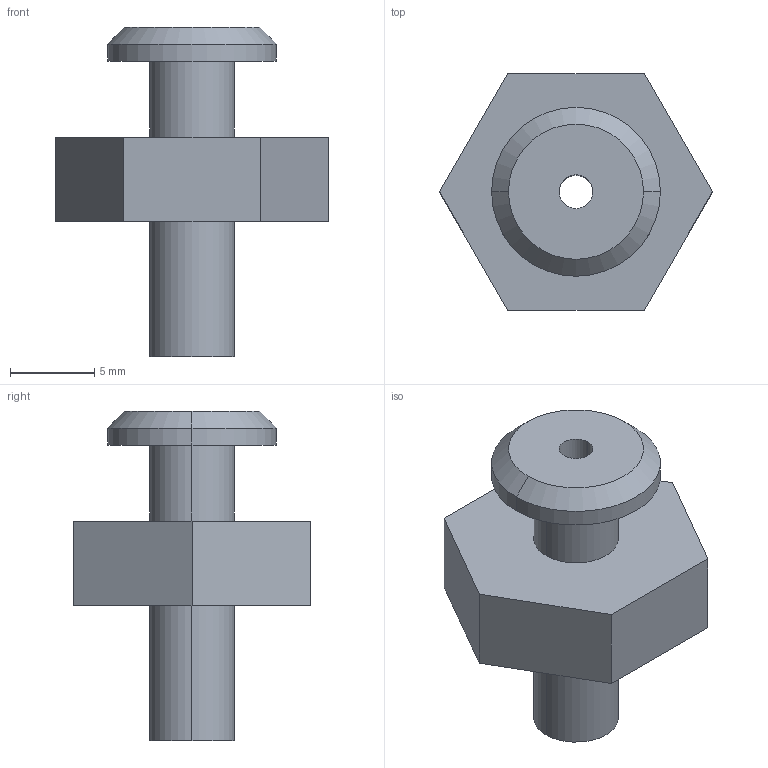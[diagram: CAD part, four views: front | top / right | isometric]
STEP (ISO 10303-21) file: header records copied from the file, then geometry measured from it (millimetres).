
FILE_DESCRIPTION (( 'STEP AP214' ), '1' );
FILE_NAME ('VM33-M5.STEP', '2023-03-07T08:24:54', ( 'Windows User' ), ( 'P R C' ), 'SwSTEP 2.0', 'SolidWorks 2019', '' );
FILE_SCHEMA (( 'AUTOMOTIVE_DESIGN' ));
Length unit declared in the file: millimetre
Products named in the file (1): VM33-M5
Bounding box: 16.17 x 14 x 19.5 mm (x, y, z)
Volume: 1175.3 mm3; surface area: 1055.5 mm2
Topology: 1 solids, 1 shells, 21 faces, 46 edges, 30 vertices
Faces by surface type: plane 11, cylinder 8, cone 2
Entity records: 620 total; most frequent: DIRECTION 108, CARTESIAN_POINT 98, ORIENTED_EDGE 92, EDGE_CURVE 46, AXIS2_PLACEMENT_3D 40, VERTEX_POINT 30, LINE 28, VECTOR 28
